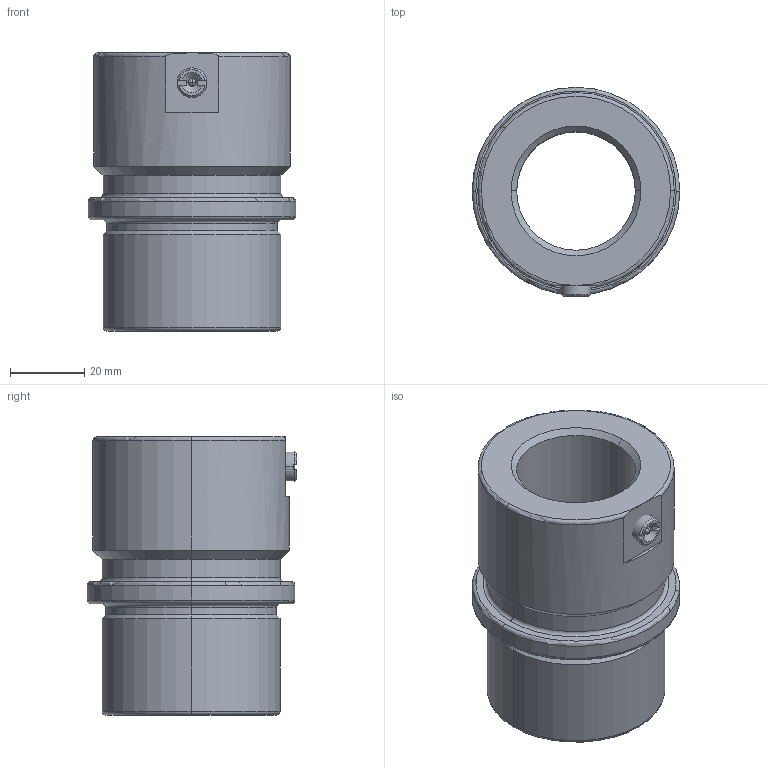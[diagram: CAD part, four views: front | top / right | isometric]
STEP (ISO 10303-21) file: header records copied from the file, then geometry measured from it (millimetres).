
FILE_DESCRIPTION(('CATIA V5 STEP Exchange'),'2;1');
FILE_NAME('C:\Users\Utente\Desktop\IO LAVORO\3D X SITO CF\X SITO\744\744-32.stp','2020-12-23T21:16:23+00:00',('none'),('none'),'CATIA Version 5 Release 20 GA (IN-10)','CATIA V5 STEP AP203','none');
FILE_SCHEMA(('CONFIG_CONTROL_DESIGN'));
Length unit declared in the file: millimetre
Products named in the file (1): 744-32
Bounding box: 56 x 56.5 x 75 mm (x, y, z)
Volume: 91026.2 mm3; surface area: 23463.5 mm2
Topology: 2 solids, 2 shells, 67 faces, 157 edges, 93 vertices
Faces by surface type: cylinder 16, plane 16, cone 16, torus 15, sphere 4
Entity records: 2049 total; most frequent: CARTESIAN_POINT 546, ORIENTED_EDGE 306, DIRECTION 266, AXIS2_PLACEMENT_3D 155, EDGE_CURVE 153, VERTEX_POINT 93, CIRCLE 87, EDGE_LOOP 74
